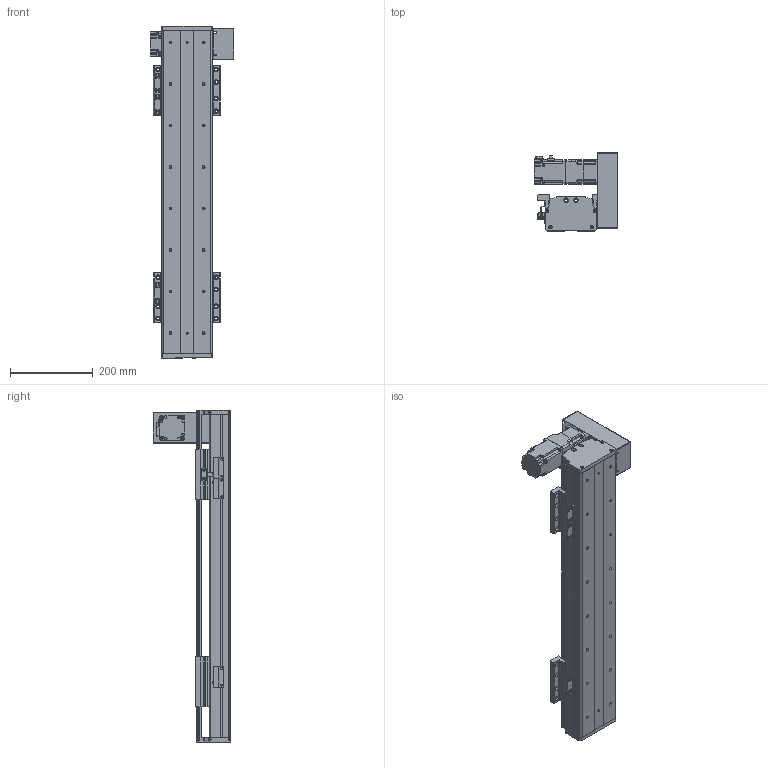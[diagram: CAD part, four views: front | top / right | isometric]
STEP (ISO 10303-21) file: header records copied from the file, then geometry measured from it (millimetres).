
FILE_DESCRIPTION(/* description */ (''),/* implementation_level */ '2;1');
FILE_NAME(/* name */ 'C:\Users\PC\Desktop\3D도면\STEP\DSB125-UR2G-W0500-L.stp',/* time_stamp */ '2018-06-19T16:48:07+09:00',/* author */ ('PC'),/* organization */ (''),/* preprocessor_version */ 'ST-DEVELOPER v16.5',/* originating_system */ 'Autodesk Inventor 2017',/* authorisation */ '');
FILE_SCHEMA (('AUTOMOTIVE_DESIGN { 1 0 10303 214 3 1 1 }'));
Length unit declared in the file: millimetre
Products named in the file (12): DSB125-UL2G-W0500-R_MIR; DSB125-BASE_MIR; DSB125-UP COVER_MIR; DSB125-FRONT COVER_MIR; DSB125-REAR COVER_MIR; hg-kr23__MIR; ab0601-p0401200402_MIR; 13-BELT COVER_MIR; DSR125-SENSOR DOG_MIR; SENSOR BRACKET(EE-SX674A)_MIR; pm-y65_step_MIR; DSB125-TABLE(MSB15S)_MIR
Assembly tree (16 placements, depth 2):
  DSB125-UL2G-W0500-R_MIR
    DSB125-BASE_MIR
    DSB125-UP COVER_MIR
    DSB125-FRONT COVER_MIR
    DSB125-REAR COVER_MIR
    hg-kr23__MIR
    ab0601-p0401200402_MIR
    13-BELT COVER_MIR
    DSR125-SENSOR DOG_MIR
    SENSOR BRACKET(EE-SX674A)_MIR  x3
    pm-y65_step_MIR  x3
    DSB125-TABLE(MSB15S)_MIR  x2
Bounding box: 202.1 x 187 x 800 mm (x, y, z)
Volume: 3416428.7 mm3; surface area: 986977.2 mm2
Topology: 17 solids, 17 shells, 1643 faces, 4460 edges, 2942 vertices
Faces by surface type: plane 903, cylinder 622, cone 106, sphere 8, torus 4
Full cylindrical faces by diameter (mm): 2.459 x20, 3.242 x16, 3.5 x6, 4 x1, 4.134 x16, 4.2 x4, 4.3 x1, 4.5 x50, 4.917 x20, 5 x22, 5.3 x1, 5.5 x4, 5.6 x8, 5.8 x4, 5.9 x8, 6 x4, 6.6 x22, 6.647 x16, 7.5 x32, 8.5 x8, 8.7 x1, 11 x22, 14 x1, 16 x2, 17 x1, 20 x1, 47 x1, 50 x3
Entity records: 35633 total; most frequent: CARTESIAN_POINT 6435, DIRECTION 6042, ORIENTED_EDGE 5442, EDGE_CURVE 2721, AXIS2_PLACEMENT_3D 2209, VERTEX_POINT 1930, EDGE_LOOP 1637, LINE 1624
